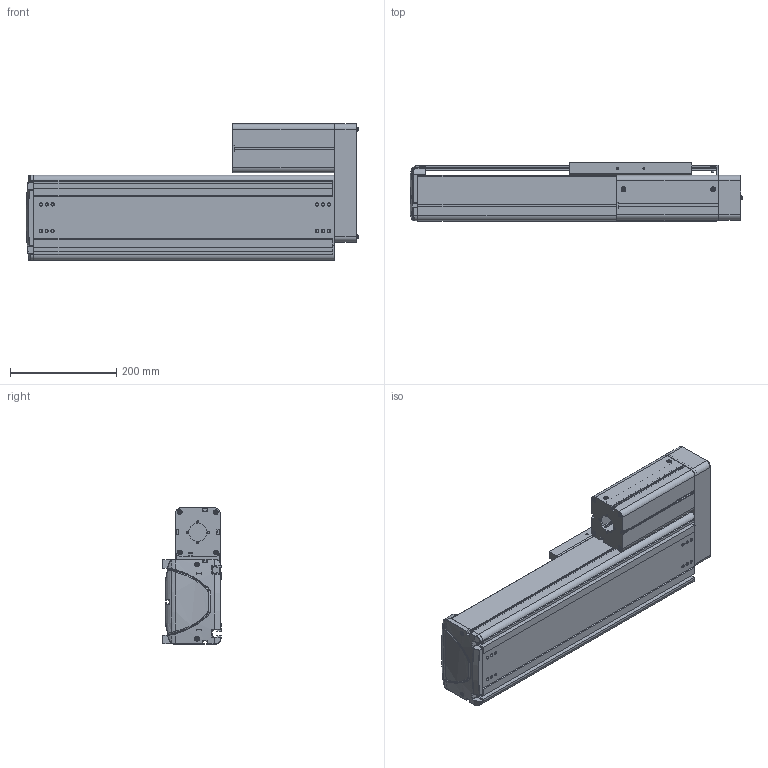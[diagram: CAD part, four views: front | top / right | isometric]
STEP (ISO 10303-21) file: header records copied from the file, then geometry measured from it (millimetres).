
FILE_DESCRIPTION((''),'2;1');
FILE_NAME('BE50F-UR-L_B-25_IGS_PRT','2017-06-18T',(' '),(''),'PRO/ENGINEER BY PARAMETRIC TECHNOLOGY CORPORATION, 2015030','PRO/ENGINEER BY PARAMETRIC TECHNOLOGY CORPORATION, 2015030','');
FILE_SCHEMA(('CONFIG_CONTROL_DESIGN'));
Length unit declared in the file: millimetre
Products named in the file (1): BE50F-UR-L_B-25_IGS_PRT
Bounding box: 625.88 x 110 x 257 mm (x, y, z)
Volume: 3330381.2 mm3; surface area: 1312483.3 mm2
Topology: 4 solids, 116 shells, 2115 faces, 5699 edges, 3710 vertices
Faces by surface type: plane 982, cylinder 875, cone 115, torus 59, bspline 52, sphere 32
Entity records: 69527 total; most frequent: CARTESIAN_POINT 15735, DIRECTION 11332, ORIENTED_EDGE 10888, EDGE_CURVE 5657, AXIS2_PLACEMENT_3D 4028, VERTEX_POINT 3710, VECTOR 3276, LINE 3276
